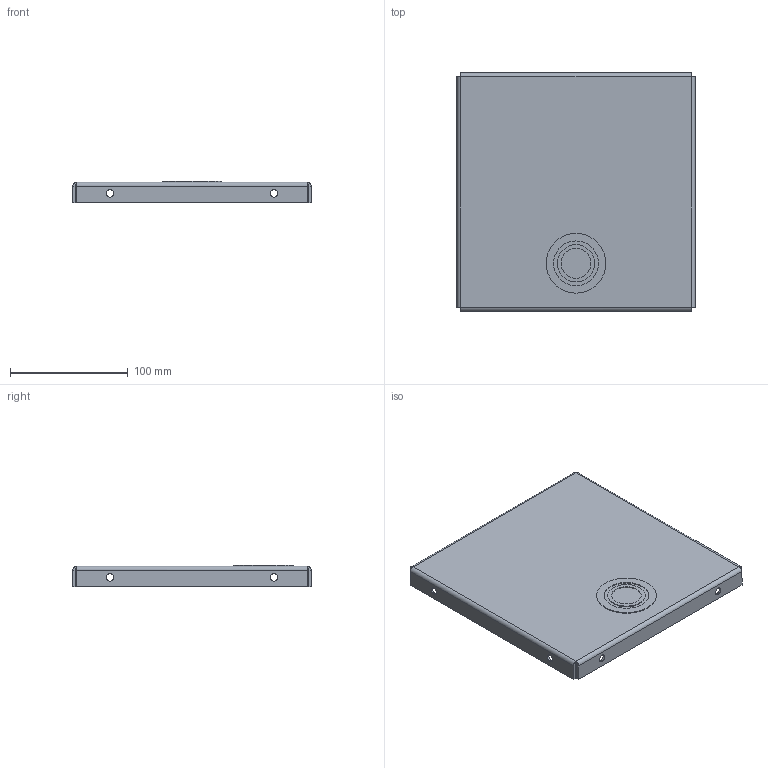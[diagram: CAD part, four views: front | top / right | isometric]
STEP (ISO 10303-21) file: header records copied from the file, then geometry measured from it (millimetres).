
FILE_DESCRIPTION (( 'STEP AP203' ), '1' );
FILE_NAME ('f88gcpgv.STEP', '2020-05-04T20:01:50', ( '' ), ( '' ), 'SwSTEP 2.0', 'SolidWorks 2016', '' );
FILE_SCHEMA (( 'CONFIG_CONTROL_DESIGN' ));
Length unit declared in the file: inch
Products named in the file (2): f88gcpgv; 16207204
Assembly tree (1 placements, depth 2):
  f88gcpgv
    16207204
Bounding box: 202.69 x 202.69 x 18.24 mm (x, y, z)
Volume: 95694 mm3; surface area: 107300.5 mm2
Topology: 1 solids, 1 shells, 78 faces, 172 edges, 104 vertices
Faces by surface type: cylinder 40, plane 30, bspline 8
Entity records: 2756 total; most frequent: CARTESIAN_POINT 814, DIRECTION 368, ORIENTED_EDGE 344, EDGE_CURVE 172, AXIS2_PLACEMENT_3D 138, VERTEX_POINT 104, EDGE_LOOP 102, VECTOR 92
